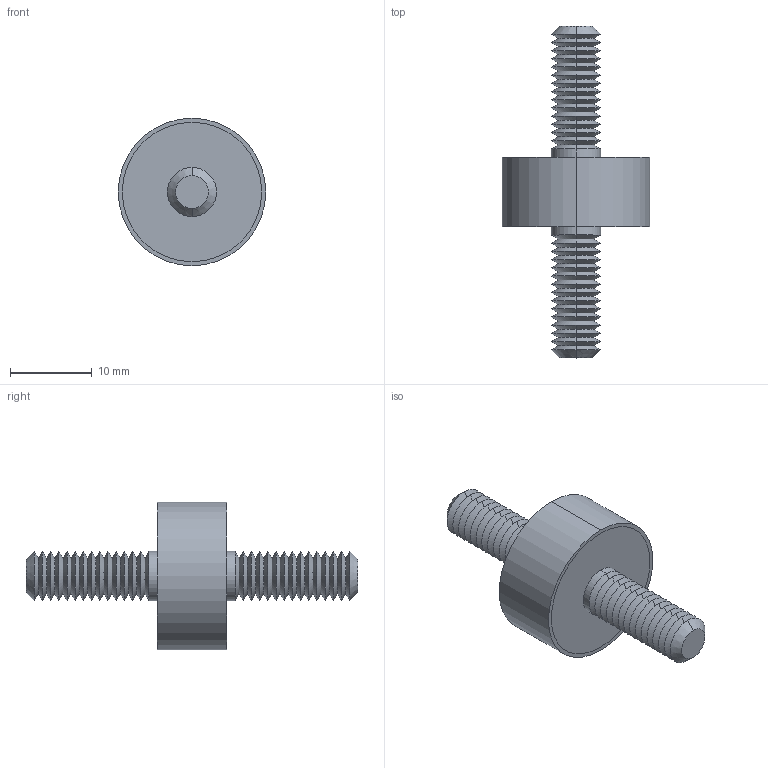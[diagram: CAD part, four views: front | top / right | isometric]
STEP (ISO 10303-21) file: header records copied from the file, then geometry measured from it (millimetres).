
FILE_DESCRIPTION (( 'STEP AP203' ), '1' );
FILE_NAME ('61040.W0182.step', '2019-09-24T22:25:53', ( '' ), ( '' ), 'SwSTEP 2.0', 'SolidWorks 2017', '' );
FILE_SCHEMA (( 'CONFIG_CONTROL_DESIGN' ));
Length unit declared in the file: millimetre
Products named in the file (4): Part1_61040.W0182; Part3_61040.W0182; Part2_61040.W0182; 61040.W0182
Assembly tree (3 placements, depth 2):
  61040.W0182
    Part1_61040.W0182
    Part2_61040.W0182
    Part3_61040.W0182
Bounding box: 18 x 40.5 x 18 mm (x, y, z)
Volume: 2844.5 mm3; surface area: 2958.3 mm2
Topology: 3 solids, 3 shells, 140 faces, 274 edges, 144 vertices
Faces by surface type: cone 116, cylinder 14, plane 10
Entity records: 3908 total; most frequent: DIRECTION 710, CARTESIAN_POINT 564, ORIENTED_EDGE 548, AXIS2_PLACEMENT_3D 290, EDGE_CURVE 274, CIRCLE 144, EDGE_LOOP 144, VERTEX_POINT 144
